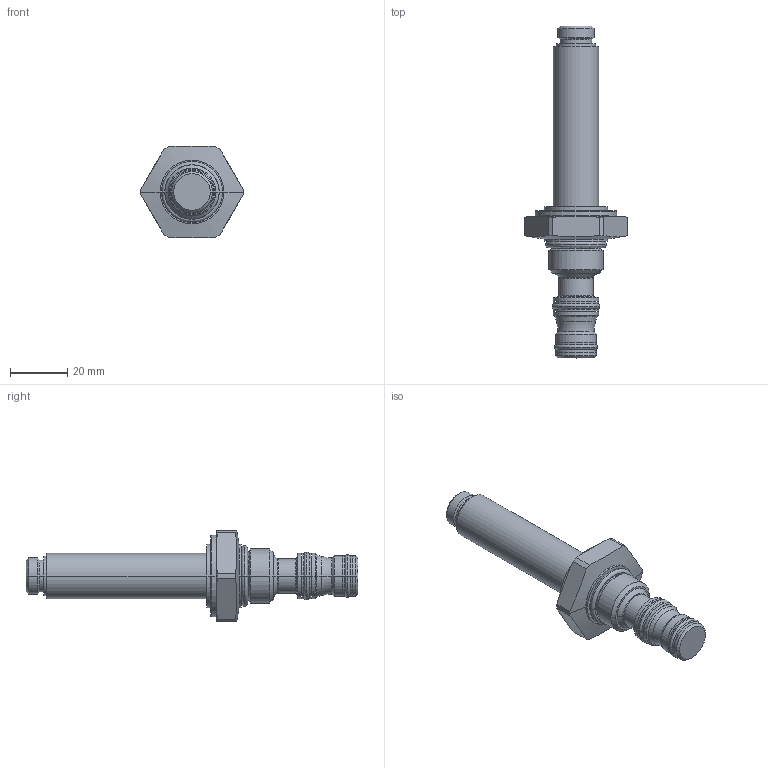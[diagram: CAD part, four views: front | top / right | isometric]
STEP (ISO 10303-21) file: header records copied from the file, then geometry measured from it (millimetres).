
FILE_DESCRIPTION((''),'2;1');
FILE_NAME('5003002_SW0001','2009-03-04T',('jcs'),(''),'PRO/ENGINEER BY PARAMETRIC TECHNOLOGY CORPORATION, 2008010','PRO/ENGINEER BY PARAMETRIC TECHNOLOGY CORPORATION, 2008010','');
FILE_SCHEMA(('CONFIG_CONTROL_DESIGN'));
Length unit declared in the file: inch
Products named in the file (1): 5003002_SW0001
Bounding box: 35.69 x 115.54 x 31.75 mm (x, y, z)
Volume: 28167.4 mm3; surface area: 9534.8 mm2
Topology: 4 solids, 4 shells, 171 faces, 358 edges, 208 vertices
Faces by surface type: cylinder 56, cone 40, plane 27, torus 24, revolution 24
Entity records: 5068 total; most frequent: CARTESIAN_POINT 1293, DIRECTION 848, ORIENTED_EDGE 716, AXIS2_PLACEMENT_3D 361, EDGE_CURVE 358, CIRCLE 214, VERTEX_POINT 208, EDGE_LOOP 190
